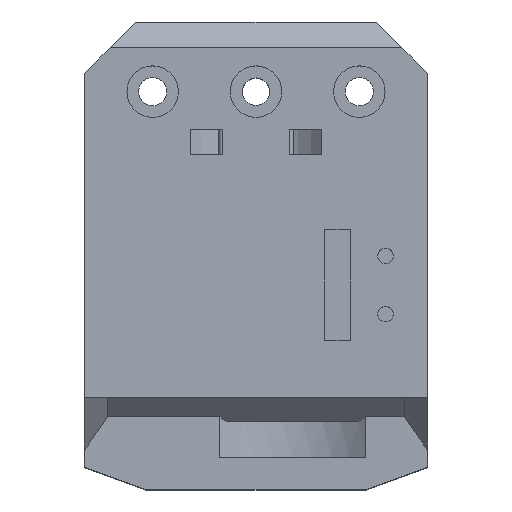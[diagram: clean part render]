
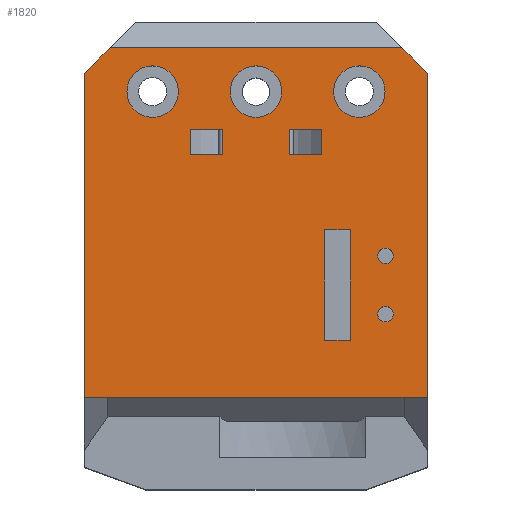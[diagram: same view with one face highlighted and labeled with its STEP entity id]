
A CAD part, top view. The second image highlights one B-rep face of the part: STEP entity #1820.
In plain terms, the highlighted planar face has unit normal (0, 0, 1).
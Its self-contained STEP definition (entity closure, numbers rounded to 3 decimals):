
#122=LINE('',#2718,#262);
#139=LINE('',#2752,#279);
#178=LINE('',#2915,#318);
#183=LINE('',#2924,#323);
#184=LINE('',#2926,#324);
#187=LINE('',#2979,#327);
#188=LINE('',#2982,#328);
#189=LINE('',#2984,#329);
#190=LINE('',#2986,#330);
#191=LINE('',#2987,#331);
#192=LINE('',#2990,#332);
#193=LINE('',#2992,#333);
#194=LINE('',#2994,#334);
#195=LINE('',#2995,#335);
#196=LINE('',#2998,#336);
#197=LINE('',#3000,#337);
#198=LINE('',#3002,#338);
#199=LINE('',#3007,#339);
#200=LINE('',#3009,#340);
#201=LINE('',#3011,#341);
#262=VECTOR('',#2148,1000.);
#279=VECTOR('',#2167,1000.);
#318=VECTOR('',#2350,1000.);
#323=VECTOR('',#2359,1000.);
#324=VECTOR('',#2362,1000.);
#327=VECTOR('',#2435,1000.);
#328=VECTOR('',#2436,1000.);
#329=VECTOR('',#2437,1000.);
#330=VECTOR('',#2438,1000.);
#331=VECTOR('',#2439,1000.);
#332=VECTOR('',#2440,1000.);
#333=VECTOR('',#2441,1000.);
#334=VECTOR('',#2442,1000.);
#335=VECTOR('',#2443,1000.);
#336=VECTOR('',#2444,1000.);
#337=VECTOR('',#2445,1000.);
#338=VECTOR('',#2446,1000.);
#339=VECTOR('',#2451,1000.);
#340=VECTOR('',#2452,1000.);
#341=VECTOR('',#2453,1000.);
#641=ORIENTED_EDGE('',*,*,#987,.F.);
#642=ORIENTED_EDGE('',*,*,#988,.F.);
#643=ORIENTED_EDGE('',*,*,#989,.F.);
#644=ORIENTED_EDGE('',*,*,#990,.T.);
#645=ORIENTED_EDGE('',*,*,#991,.F.);
#646=ORIENTED_EDGE('',*,*,#992,.T.);
#647=ORIENTED_EDGE('',*,*,#993,.F.);
#648=ORIENTED_EDGE('',*,*,#994,.F.);
#649=ORIENTED_EDGE('',*,*,#995,.T.);
#650=ORIENTED_EDGE('',*,*,#996,.T.);
#651=ORIENTED_EDGE('',*,*,#997,.T.);
#652=ORIENTED_EDGE('',*,*,#998,.T.);
#653=ORIENTED_EDGE('',*,*,#999,.F.);
#654=ORIENTED_EDGE('',*,*,#1000,.F.);
#655=ORIENTED_EDGE('',*,*,#984,.T.);
#656=ORIENTED_EDGE('',*,*,#874,.T.);
#657=ORIENTED_EDGE('',*,*,#968,.T.);
#658=ORIENTED_EDGE('',*,*,#963,.F.);
#659=ORIENTED_EDGE('',*,*,#969,.F.);
#660=ORIENTED_EDGE('',*,*,#891,.F.);
#661=ORIENTED_EDGE('',*,*,#1001,.F.);
#662=ORIENTED_EDGE('',*,*,#1002,.F.);
#663=ORIENTED_EDGE('',*,*,#1003,.F.);
#664=ORIENTED_EDGE('',*,*,#983,.F.);
#665=ORIENTED_EDGE('',*,*,#986,.F.);
#874=EDGE_CURVE('',#1104,#1103,#122,.T.);
#891=EDGE_CURVE('',#1119,#1120,#139,.T.);
#963=EDGE_CURVE('',#1171,#1172,#178,.T.);
#968=EDGE_CURVE('',#1103,#1172,#183,.T.);
#969=EDGE_CURVE('',#1120,#1171,#184,.T.);
#983=EDGE_CURVE('',#1185,#1185,#1277,.F.);
#984=EDGE_CURVE('',#1186,#1186,#1278,.T.);
#986=EDGE_CURVE('',#1188,#1188,#1280,.F.);
#987=EDGE_CURVE('',#1189,#1190,#187,.F.);
#988=EDGE_CURVE('',#1191,#1189,#188,.T.);
#989=EDGE_CURVE('',#1192,#1191,#189,.T.);
#990=EDGE_CURVE('',#1192,#1190,#190,.T.);
#991=EDGE_CURVE('',#1193,#1194,#191,.T.);
#992=EDGE_CURVE('',#1193,#1195,#192,.T.);
#993=EDGE_CURVE('',#1196,#1195,#193,.F.);
#994=EDGE_CURVE('',#1194,#1196,#194,.T.);
#995=EDGE_CURVE('',#1197,#1198,#195,.T.);
#996=EDGE_CURVE('',#1198,#1199,#196,.T.);
#997=EDGE_CURVE('',#1199,#1200,#197,.T.);
#998=EDGE_CURVE('',#1200,#1197,#198,.T.);
#999=EDGE_CURVE('',#1201,#1201,#1281,.T.);
#1000=EDGE_CURVE('',#1202,#1202,#1282,.T.);
#1001=EDGE_CURVE('',#1203,#1119,#199,.F.);
#1002=EDGE_CURVE('',#1204,#1203,#200,.T.);
#1003=EDGE_CURVE('',#1104,#1204,#201,.F.);
#1103=VERTEX_POINT('',#2717);
#1104=VERTEX_POINT('',#2719);
#1119=VERTEX_POINT('',#2751);
#1120=VERTEX_POINT('',#2753);
#1171=VERTEX_POINT('',#2914);
#1172=VERTEX_POINT('',#2916);
#1185=VERTEX_POINT('',#2969);
#1186=VERTEX_POINT('',#2972);
#1188=VERTEX_POINT('',#2977);
#1189=VERTEX_POINT('',#2980);
#1190=VERTEX_POINT('',#2981);
#1191=VERTEX_POINT('',#2983);
#1192=VERTEX_POINT('',#2985);
#1193=VERTEX_POINT('',#2988);
#1194=VERTEX_POINT('',#2989);
#1195=VERTEX_POINT('',#2991);
#1196=VERTEX_POINT('',#2993);
#1197=VERTEX_POINT('',#2996);
#1198=VERTEX_POINT('',#2997);
#1199=VERTEX_POINT('',#2999);
#1200=VERTEX_POINT('',#3001);
#1201=VERTEX_POINT('',#3004);
#1202=VERTEX_POINT('',#3006);
#1203=VERTEX_POINT('',#3008);
#1204=VERTEX_POINT('',#3010);
#1277=CIRCLE('',#1993,3.);
#1278=CIRCLE('',#1995,3.);
#1280=CIRCLE('',#1998,3.);
#1281=CIRCLE('',#2000,0.9);
#1282=CIRCLE('',#2001,0.9);
#1446=EDGE_LOOP('',(#641,#642,#643,#644));
#1447=EDGE_LOOP('',(#645,#646,#647,#648));
#1448=EDGE_LOOP('',(#649,#650,#651,#652));
#1449=EDGE_LOOP('',(#653));
#1450=EDGE_LOOP('',(#654));
#1451=EDGE_LOOP('',(#655));
#1452=EDGE_LOOP('',(#656,#657,#658,#659,#660,#661,#662,#663));
#1453=EDGE_LOOP('',(#664));
#1454=EDGE_LOOP('',(#665));
#1636=FACE_BOUND('',#1446,.T.);
#1637=FACE_BOUND('',#1447,.T.);
#1638=FACE_BOUND('',#1448,.T.);
#1639=FACE_BOUND('',#1449,.T.);
#1640=FACE_BOUND('',#1450,.T.);
#1641=FACE_BOUND('',#1451,.T.);
#1642=FACE_BOUND('',#1452,.T.);
#1643=FACE_BOUND('',#1453,.T.);
#1644=FACE_BOUND('',#1454,.T.);
#1732=PLANE('',#1999);
#1820=ADVANCED_FACE('',(#1636,#1637,#1638,#1639,#1640,#1641,#1642,#1643,
#1644),#1732,.T.);
#1993=AXIS2_PLACEMENT_3D('',#2968,#2421,#2422);
#1995=AXIS2_PLACEMENT_3D('',#2971,#2425,#2426);
#1998=AXIS2_PLACEMENT_3D('',#2976,#2431,#2432);
#1999=AXIS2_PLACEMENT_3D('',#2978,#2433,#2434);
#2000=AXIS2_PLACEMENT_3D('',#3003,#2447,#2448);
#2001=AXIS2_PLACEMENT_3D('',#3005,#2449,#2450);
#2148=DIRECTION('',(0.,-1.,0.));
#2167=DIRECTION('',(0.,-1.,0.));
#2350=DIRECTION('',(-1.,0.,0.));
#2359=DIRECTION('',(0.577,0.816,0.));
#2362=DIRECTION('',(-0.577,0.816,0.));
#2421=DIRECTION('',(0.,0.,-1.));
#2422=DIRECTION('',(-1.,0.,0.));
#2425=DIRECTION('',(0.,0.,-1.));
#2426=DIRECTION('',(-1.,0.,0.));
#2431=DIRECTION('',(0.,0.,-1.));
#2432=DIRECTION('',(-1.,0.,0.));
#2433=DIRECTION('',(0.,0.,1.));
#2434=DIRECTION('',(0.,-1.,0.));
#2435=DIRECTION('',(0.,-1.,0.));
#2436=DIRECTION('',(1.,0.,0.));
#2437=DIRECTION('',(0.,-1.,0.));
#2438=DIRECTION('',(1.,0.,0.));
#2439=DIRECTION('',(0.,-1.,0.));
#2440=DIRECTION('',(1.,0.,0.));
#2441=DIRECTION('',(0.,-1.,0.));
#2442=DIRECTION('',(1.,0.,0.));
#2443=DIRECTION('',(0.,-1.,0.));
#2444=DIRECTION('',(-1.,0.,0.));
#2445=DIRECTION('',(0.,1.,0.));
#2446=DIRECTION('',(1.,0.,0.));
#2447=DIRECTION('',(0.,0.,1.));
#2448=DIRECTION('',(-1.,0.,0.));
#2449=DIRECTION('',(0.,0.,1.));
#2450=DIRECTION('',(-1.,0.,0.));
#2451=DIRECTION('',(-0.707,0.707,0.));
#2452=DIRECTION('',(1.,0.,0.));
#2453=DIRECTION('',(-0.707,-0.707,0.));
#2717=CARTESIAN_POINT('',(485.05,-27.902,-2.002));
#2718=CARTESIAN_POINT('',(485.05,-24.507,-2.002));
#2719=CARTESIAN_POINT('',(485.05,10.,-2.002));
#2751=CARTESIAN_POINT('',(525.05,10.,-2.002));
#2752=CARTESIAN_POINT('',(525.05,-20.597,-2.002));
#2753=CARTESIAN_POINT('',(525.05,-27.902,-2.002));
#2914=CARTESIAN_POINT('',(524.978,-27.8,-2.002));
#2915=CARTESIAN_POINT('',(518.11,-27.8,-2.002));
#2916=CARTESIAN_POINT('',(485.122,-27.8,-2.002));
#2924=CARTESIAN_POINT('',(499.514,-7.447,-2.002));
#2926=CARTESIAN_POINT('',(525.709,-28.834,-2.002));
#2968=CARTESIAN_POINT('',(493.,7.88,-2.002));
#2969=CARTESIAN_POINT('',(490.,7.88,-2.002));
#2971=CARTESIAN_POINT('',(505.05,7.88,-2.002));
#2972=CARTESIAN_POINT('',(502.05,7.88,-2.002));
#2976=CARTESIAN_POINT('',(517.1,7.88,-2.002));
#2977=CARTESIAN_POINT('',(514.1,7.88,-2.002));
#2978=CARTESIAN_POINT('',(518.11,-20.597,-2.002));
#2979=CARTESIAN_POINT('',(501.177,-20.597,-2.002));
#2980=CARTESIAN_POINT('',(501.177,0.5,-2.002));
#2981=CARTESIAN_POINT('',(501.177,3.5,-2.002));
#2982=CARTESIAN_POINT('',(518.11,0.5,-2.002));
#2983=CARTESIAN_POINT('',(497.451,0.5,-2.002));
#2984=CARTESIAN_POINT('',(497.451,-0.5,-2.002));
#2985=CARTESIAN_POINT('',(497.451,3.5,-2.002));
#2986=CARTESIAN_POINT('',(518.11,3.5,-2.002));
#2987=CARTESIAN_POINT('',(508.923,-20.597,-2.002));
#2988=CARTESIAN_POINT('',(508.923,3.5,-2.002));
#2989=CARTESIAN_POINT('',(508.923,0.5,-2.002));
#2990=CARTESIAN_POINT('',(518.11,3.5,-2.002));
#2991=CARTESIAN_POINT('',(512.649,3.5,-2.002));
#2992=CARTESIAN_POINT('',(512.649,-0.5,-2.002));
#2993=CARTESIAN_POINT('',(512.649,0.5,-2.002));
#2994=CARTESIAN_POINT('',(518.11,0.5,-2.002));
#2995=CARTESIAN_POINT('',(516.05,-8.22,-2.002));
#2996=CARTESIAN_POINT('',(516.05,-8.22,-2.002));
#2997=CARTESIAN_POINT('',(516.05,-21.12,-2.002));
#2998=CARTESIAN_POINT('',(516.05,-21.12,-2.002));
#2999=CARTESIAN_POINT('',(513.05,-21.12,-2.002));
#3000=CARTESIAN_POINT('',(513.05,-21.12,-2.002));
#3001=CARTESIAN_POINT('',(513.05,-8.22,-2.002));
#3002=CARTESIAN_POINT('',(513.05,-8.22,-2.002));
#3003=CARTESIAN_POINT('',(520.15,-18.07,-2.002));
#3004=CARTESIAN_POINT('',(519.25,-18.07,-2.002));
#3005=CARTESIAN_POINT('',(520.15,-11.27,-2.002));
#3006=CARTESIAN_POINT('',(519.25,-11.27,-2.002));
#3007=CARTESIAN_POINT('',(536.879,-1.829,-2.002));
#3008=CARTESIAN_POINT('',(522.05,13.,-2.002));
#3009=CARTESIAN_POINT('',(518.11,13.,-2.002));
#3010=CARTESIAN_POINT('',(488.05,13.,-2.002));
#3011=CARTESIAN_POINT('',(486.281,11.231,-2.002));
